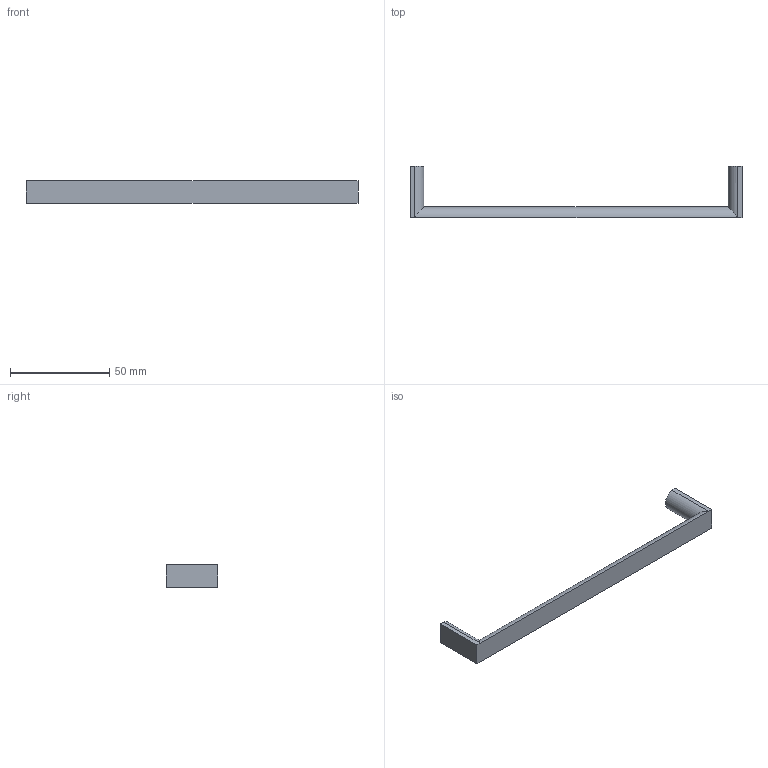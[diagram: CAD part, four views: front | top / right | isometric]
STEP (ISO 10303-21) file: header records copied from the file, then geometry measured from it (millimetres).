
FILE_DESCRIPTION( ( '' ), '1' );
FILE_NAME( 'C:/Documents and Settings/Sachin/Desktop/Sheet 10_1/stp/9995780.stp', '2013-10-22T08:40:02', ( '' ), ( '' ), ' ', ' ', ' ' );
FILE_SCHEMA( ( 'CONFIG_CONTROL_DESIGN' ) );
Length unit declared in the file: millimetre
Products named in the file (1): 1
Bounding box: 167 x 26 x 11.5 mm (x, y, z)
Volume: 10769.3 mm3; surface area: 6662.9 mm2
Topology: 1 solids, 1 shells, 18 faces, 38 edges, 24 vertices
Faces by surface type: plane 11, cylinder 7
Entity records: 610 total; most frequent: CARTESIAN_POINT 171, DIRECTION 84, ORIENTED_EDGE 76, EDGE_CURVE 38, AXIS2_PLACEMENT_3D 29, LINE 26, VECTOR 26, VERTEX_POINT 24
